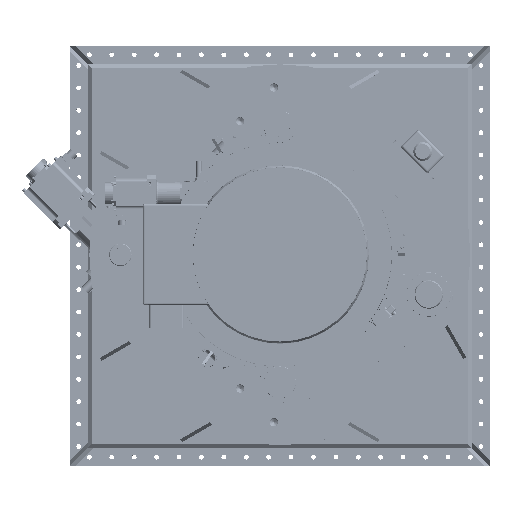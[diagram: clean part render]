
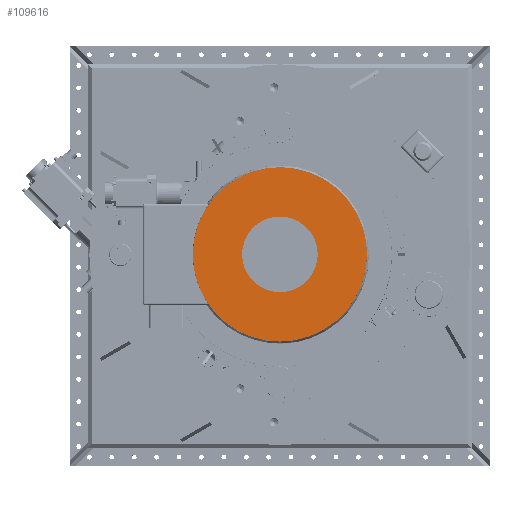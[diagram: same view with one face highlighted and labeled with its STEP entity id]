
A CAD part, top view. The second image highlights one B-rep face of the part: STEP entity #109616.
In plain terms, the highlighted planar face has unit normal (0, 0, 1).
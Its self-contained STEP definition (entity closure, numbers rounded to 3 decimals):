
#21353=FACE_BOUND('',#32305,.T.);
#25639=FACE_OUTER_BOUND('',#32304,.T.);
#32304=EDGE_LOOP('',(#88756));
#32305=EDGE_LOOP('',(#88757));
#38392=CIRCLE('',#119868,311.);
#38393=CIRCLE('',#119869,135.);
#47759=VERTEX_POINT('',#192268);
#47760=VERTEX_POINT('',#192270);
#61774=EDGE_CURVE('',#47759,#47759,#38392,.T.);
#61775=EDGE_CURVE('',#47760,#47760,#38393,.T.);
#88756=ORIENTED_EDGE('',*,*,#61774,.T.);
#88757=ORIENTED_EDGE('',*,*,#61775,.T.);
#99019=PLANE('',#119867);
#109616=ADVANCED_FACE('',(#25639,#21353),#99019,.F.);
#119867=AXIS2_PLACEMENT_3D('',#192267,#145737,#145738);
#119868=AXIS2_PLACEMENT_3D('',#192269,#145739,#145740);
#119869=AXIS2_PLACEMENT_3D('',#192271,#145741,#145742);
#145737=DIRECTION('center_axis',(0.,0.,
-1.));
#145738=DIRECTION('ref_axis',(0.,-1.,0.));
#145739=DIRECTION('center_axis',(0.,0.,
1.));
#145740=DIRECTION('ref_axis',(0.,1.,0.));
#145741=DIRECTION('center_axis',(0.,0.,
-1.));
#145742=DIRECTION('ref_axis',(0.,-1.,0.));
#192267=CARTESIAN_POINT('Origin',(0.,0.,
3328.));
#192268=CARTESIAN_POINT('',(0.,-311.,3328.));
#192269=CARTESIAN_POINT('Origin',(0.,0.,
3328.));
#192270=CARTESIAN_POINT('',(0.,135.,3328.));
#192271=CARTESIAN_POINT('Origin',(0.,0.,
3328.));
